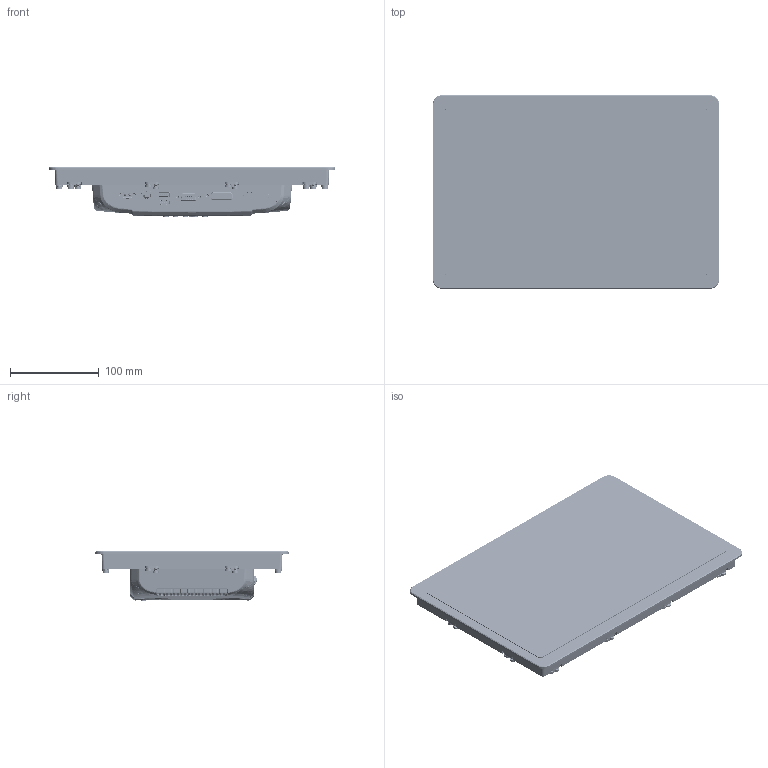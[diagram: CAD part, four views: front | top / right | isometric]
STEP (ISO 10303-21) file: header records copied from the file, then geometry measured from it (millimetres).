
FILE_DESCRIPTION(/* description */ (''),/* implementation_level */ '2;1');
FILE_NAME(/* name */ 'TDD2XXXX-11.6.stp',/* time_stamp */ '2026-03-11T15:40:34+08:00',/* author */ (''),/* organization */ (''),/* preprocessor_version */ 'ST-DEVELOPER v16',/* originating_system */ 'SIEMENS PLM Software NX 10.0',/* authorisation */ '');
FILE_SCHEMA (('AP203_CONFIGURATION_CONTROLLED_3D_DESIGN_OF_MECHANICAL_PARTS_AND_ASSEMBLIES_MIM_LF { 1 0 10303 403 2 1 2}'));
Products named in the file (1): Admi03F87D75pql5
Bounding box: 323.7 x 218.5 x 56.6 mm (x, y, z)
Volume: 656778.4 mm3; surface area: 644292 mm2
Topology: 152 solids, 164 shells, 13124 faces, 32389 edges, 19692 vertices
Faces by surface type: plane 5177, cylinder 4305, bspline 2301, torus 752, sphere 324, cone 265
Full cylindrical faces by diameter (mm): 4 x12, 4.5 x1, 6 x12, 7 x12
Entity records: 465037 total; most frequent: CARTESIAN_POINT 177669, ORIENTED_EDGE 64182, DIRECTION 54322, EDGE_CURVE 32091, VERTEX_POINT 19678, AXIS2_PLACEMENT_3D 19077, LINE 16168, VECTOR 16168
